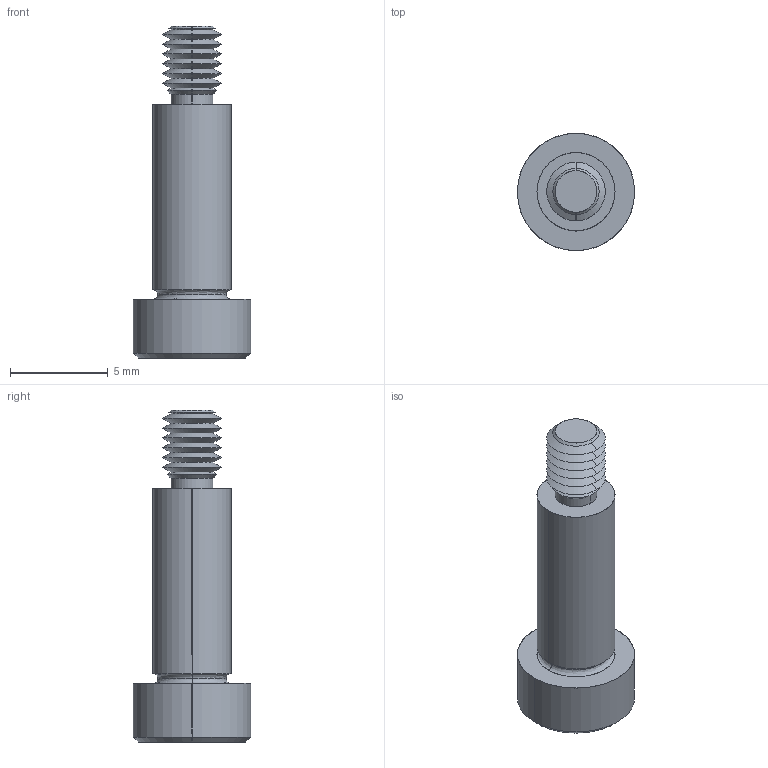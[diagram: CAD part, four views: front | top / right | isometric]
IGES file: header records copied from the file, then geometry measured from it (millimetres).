
Start section: SolidWorks IGES file using analytic representation for surfaces
Global section: file name: C:\Users\IanO\Documents\Temp Folder\GENERAL\SCREW REVISION\P0130_v2\P0130.T5_v2_20220106_IGES\P0130.040-010-T5.igs; native system: SolidWorks 2019; preprocessor: SolidWorks 2019; author: IanO; date: 220106.220650; units: millimetre
Bounding box: 6 x 6 x 17 mm (x, y, z)
Surface area: 310.5 mm2 (no closed solid volume)
Topology: 0 solids, 0 shells, 68 faces, 520 edges, 518 vertices
Faces by surface type: revolution 48, bspline 20
